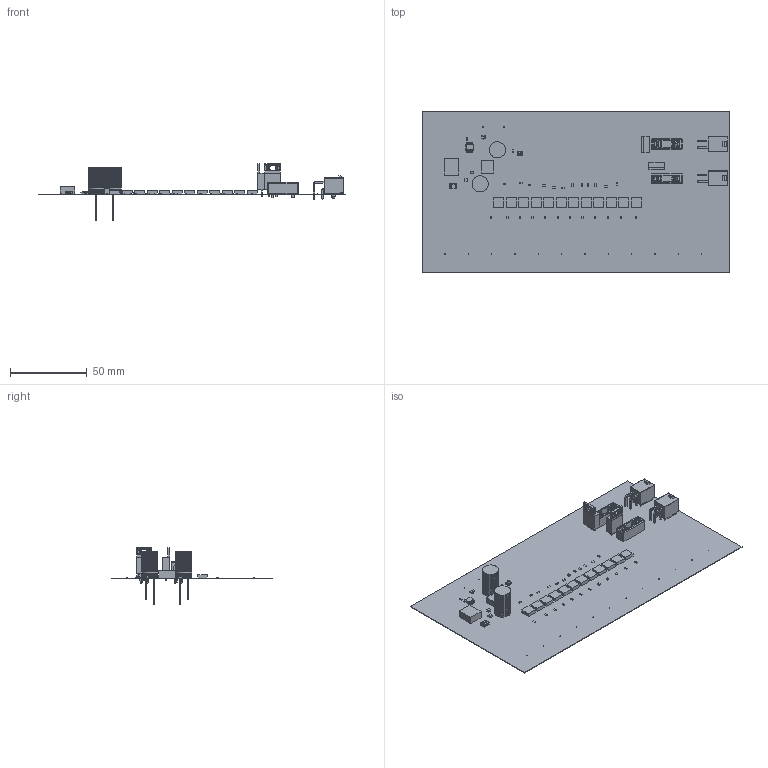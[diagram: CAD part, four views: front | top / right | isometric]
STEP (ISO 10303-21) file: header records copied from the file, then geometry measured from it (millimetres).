
FILE_DESCRIPTION(('Open CASCADE Model'),'2;1');
FILE_NAME('Open CASCADE Shape Model','2022-05-07T14:23:39',('Author'),( 'Open CASCADE'),'Open CASCADE STEP processor 6.8','Open CASCADE 6.8' ,'Unknown');
FILE_SCHEMA(('AUTOMOTIVE_DESIGN { 1 0 10303 214 1 1 1 1 }'));
Length unit declared in the file: millimetre
Products named in the file (216): PCB; Board; Open CASCADE STEP translator 6.8 3.1.1; R26; 5898043888; Mid_Body; Terminal; Open_CASCADE_STEP_translator_6.8_3.2.1; Mark; R25; R24; R23; R22; R21; R20; 5898040448; R19; 5898040768; R18; R17; R16; R15; R14; R13; R12; R11; R10; R9; R8; 5898040688; R7; R6; R5; R4; R3; 5898041328; F1; Fuse_Littelfuse_Inc_1812L035-30DR_eec; 1; 2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
Assembly tree (324 placements, depth 5):
  PCB
    Board
      Open CASCADE STEP translator 6.8 3.1.1
    R26
      5898043888
        Mid_Body
        Terminal  x2
          Open_CASCADE_STEP_translator_6.8_3.2.1
        Mark
    R25
      5898043888
        Mid_Body
        Terminal  x2
          Open_CASCADE_STEP_translator_6.8_3.2.1
        Mark
    R24
      5898043888
        Mid_Body
        Terminal  x2
          Open_CASCADE_STEP_translator_6.8_3.2.1
        Mark
    R23
      5898043888
        Mid_Body
        Terminal  x2
          Open_CASCADE_STEP_translator_6.8_3.2.1
        Mark
    R22
      5898043888
        Mid_Body
        Terminal  x2
          Open_CASCADE_STEP_translator_6.8_3.2.1
        Mark
    R21
      5898043888
        Mid_Body
        Terminal  x2
          Open_CASCADE_STEP_translator_6.8_3.2.1
        Mark
    R20
      5898040448
        Mid_Body
        Terminal  x2
          Open_CASCADE_STEP_translator_6.8_3.2.1
        Mark
    R19
      5898040768
        Mid_Body
        Terminal  x2
          Open_CASCADE_STEP_translator_6.8_3.2.1
        Mark
    R18
      5898040448
        Mid_Body
        Terminal  x2
          Open_CASCADE_STEP_translator_6.8_3.2.1
        Mark
    R17
      5898040448
        Mid_Body
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Bounding box: 200 x 105.13 x 36.85 mm (x, y, z)
Volume: 16577.9 mm3; surface area: 54660 mm2
Topology: 281 solids, 288 shells, 2928 faces, 6785 edges, 4417 vertices
Faces by surface type: plane 2560, cylinder 234, sphere 50, bspline 39, torus 20, revolution 16, cone 9
Full cylindrical faces by diameter (mm): 0.15 x1, 0.487 x1, 0.6 x4, 1.8 x1
Entity records: 42416 total; most frequent: CARTESIAN_POINT 7457, DIRECTION 6210, ORIENTED_EDGE 5565, EDGE_CURVE 2869, LINE 2374, VECTOR 2374, AXIS2_PLACEMENT_3D 1914, VERTEX_POINT 1863
